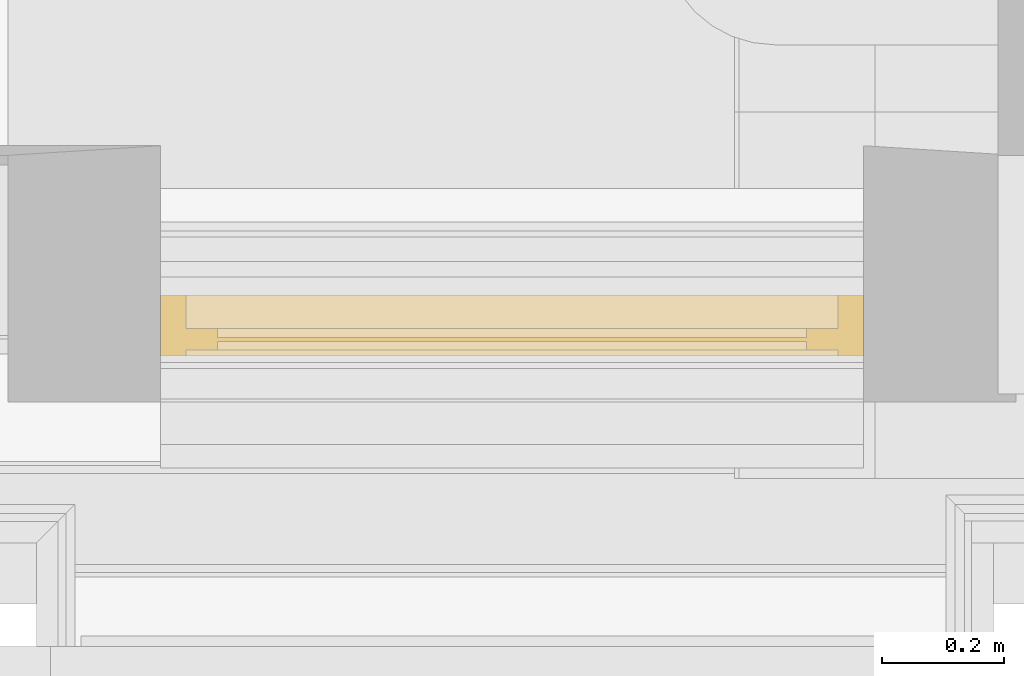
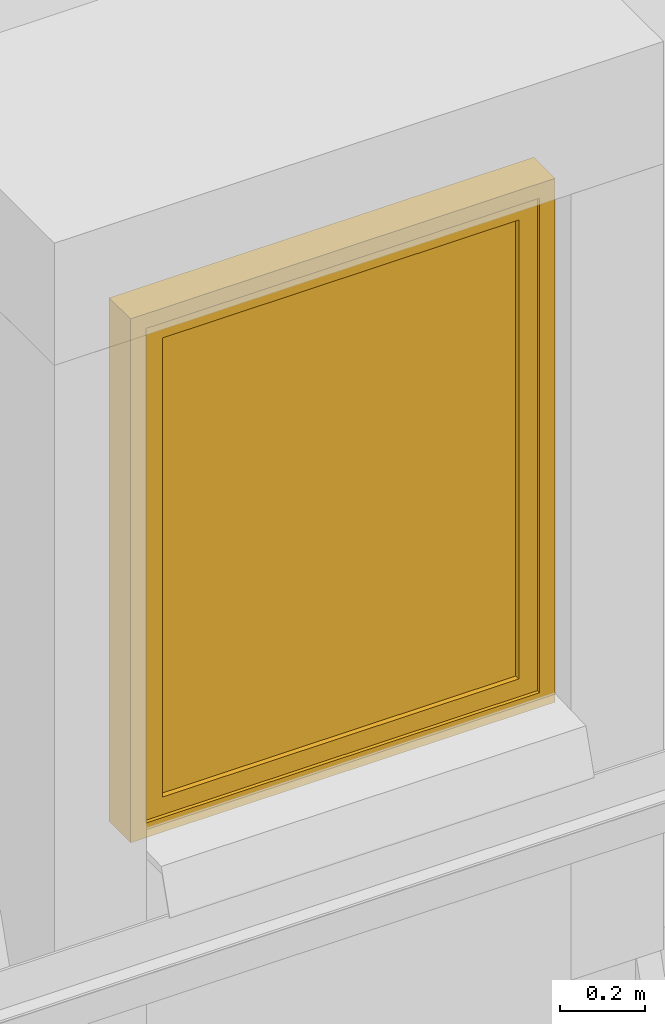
# One storey, part 102 of 169: 1 window.
"""IFC2X3 building model written with IfcOpenShell, lengths in metres."""

from ifc_helpers import new_model, entity, si_unit, converted_unit, derived_unit, money_unit, direction, frame, origin_with_axes, place, context, subcontext, project, spatial, faceted_brep, material, type_object, element, save


model = new_model("IFC2X3")

# Units and contexts
model_context = context("Model", 3, precision=1e-05, world=origin_with_axes(), true_north=direction((0.0, 1.0)))
body_context = subcontext(model_context, "Body", "Model", "MODEL_VIEW", scale=1.0)
ifc_project = project(units=[si_unit("LENGTHUNIT", "METRE"), si_unit("AREAUNIT", "SQUARE_METRE"), si_unit("VOLUMEUNIT", "CUBIC_METRE"), si_unit("ABSORBEDDOSEUNIT", "GRAY"), si_unit("AMOUNTOFSUBSTANCEUNIT", "MOLE"), si_unit("DOSEEQUIVALENTUNIT", "SIEVERT"), si_unit("ELECTRICCAPACITANCEUNIT", "FARAD"), si_unit("ELECTRICCHARGEUNIT", "COULOMB"), si_unit("ELECTRICCONDUCTANCEUNIT", "SIEMENS"), si_unit("ELECTRICCURRENTUNIT", "AMPERE"), si_unit("ELECTRICRESISTANCEUNIT", "OHM"), si_unit("ELECTRICVOLTAGEUNIT", "VOLT"), si_unit("ENERGYUNIT", "JOULE"), si_unit("FORCEUNIT", "NEWTON"), si_unit("FREQUENCYUNIT", "HERTZ"), si_unit("ILLUMINANCEUNIT", "LUX"), si_unit("INDUCTANCEUNIT", "HENRY"), si_unit("LUMINOUSFLUXUNIT", "LUMEN"), si_unit("LUMINOUSINTENSITYUNIT", "CANDELA"), si_unit("MAGNETICFLUXDENSITYUNIT", "TESLA"), si_unit("MAGNETICFLUXUNIT", "WEBER"), si_unit("MASSUNIT", "GRAM"), converted_unit("PLANEANGLEUNIT", "degree", entity("IfcReal", 0.0174532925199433), si_unit("PLANEANGLEUNIT", "RADIAN"), dimensions=[0, 0, 0, 0, 0, 0, 0]), si_unit("POWERUNIT", "WATT"), si_unit("PRESSUREUNIT", "PASCAL"), si_unit("RADIOACTIVITYUNIT", "BECQUEREL"), si_unit("SOLIDANGLEUNIT", "STERADIAN"), si_unit("THERMODYNAMICTEMPERATUREUNIT", "KELVIN"), si_unit("TIMEUNIT", "SECOND"), derived_unit("ACCELERATIONUNIT", [(si_unit("LENGTHUNIT", "METRE"), 1), (si_unit("TIMEUNIT", "SECOND"), -2)]), derived_unit("ANGULARVELOCITYUNIT", [(converted_unit("PLANEANGLEUNIT", "degree", entity("IfcReal", 0.0174532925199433), si_unit("PLANEANGLEUNIT", "RADIAN"), dimensions=[0, 0, 0, 0, 0, 0, 0]), 1), (si_unit("TIMEUNIT", "SECOND"), -1)]), derived_unit("CURVATUREUNIT", [(converted_unit("PLANEANGLEUNIT", "degree", entity("IfcReal", 0.0174532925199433), si_unit("PLANEANGLEUNIT", "RADIAN"), dimensions=[0, 0, 0, 0, 0, 0, 0]), 1), (si_unit("LENGTHUNIT", "METRE"), -1)]), derived_unit("DYNAMICVISCOSITYUNIT", [(si_unit("PRESSUREUNIT", "PASCAL"), 1), (si_unit("TIMEUNIT", "SECOND"), 1)]), derived_unit("HEATFLUXDENSITYUNIT", [(si_unit("POWERUNIT", "WATT"), 1), (si_unit("LENGTHUNIT", "METRE"), -2)]), derived_unit("HEATINGVALUEUNIT", [(si_unit("ENERGYUNIT", "JOULE"), 1), (si_unit("MASSUNIT", "GRAM"), -1)]), derived_unit("INTEGERCOUNTRATEUNIT", [(si_unit("TIMEUNIT", "SECOND"), -1)]), derived_unit("IONCONCENTRATIONUNIT", [(si_unit("MASSUNIT", "GRAM"), 1), (si_unit("VOLUMEUNIT", "CUBIC_METRE"), -1)]), derived_unit("ISOTHERMALMOISTURECAPACITYUNIT", [(si_unit("VOLUMEUNIT", "CUBIC_METRE"), 1), (si_unit("MASSUNIT", "GRAM"), -1)]), derived_unit("KINEMATICVISCOSITYUNIT", [(si_unit("AREAUNIT", "SQUARE_METRE"), 1), (si_unit("TIMEUNIT", "SECOND"), -1)]), derived_unit("LINEARFORCEUNIT", [(si_unit("FORCEUNIT", "NEWTON"), 1), (si_unit("LENGTHUNIT", "METRE"), -1)]), derived_unit("LINEARMOMENTUNIT", [(si_unit("FORCEUNIT", "NEWTON"), 1), (si_unit("LENGTHUNIT", "METRE"), -1)]), derived_unit("LINEARSTIFFNESSUNIT", [(si_unit("FORCEUNIT", "NEWTON"), 1), (si_unit("LENGTHUNIT", "METRE"), -1)]), derived_unit("LINEARVELOCITYUNIT", [(si_unit("LENGTHUNIT", "METRE"), 1), (si_unit("TIMEUNIT", "SECOND"), -1)]), derived_unit("LUMINOUSINTENSITYDISTRIBUTIONUNIT", [(si_unit("LUMINOUSINTENSITYUNIT", "CANDELA"), 1), (si_unit("LUMINOUSFLUXUNIT", "LUMEN"), -1)]), derived_unit("MASSDENSITYUNIT", [(si_unit("MASSUNIT", "GRAM"), 1), (si_unit("VOLUMEUNIT", "CUBIC_METRE"), -1)]), derived_unit("MASSFLOWRATEUNIT", [(si_unit("MASSUNIT", "GRAM"), 1), (si_unit("TIMEUNIT", "SECOND"), -1)]), derived_unit("MASSPERLENGTHUNIT", [(si_unit("MASSUNIT", "GRAM"), 1), (si_unit("LENGTHUNIT", "METRE"), -1)]), derived_unit("MODULUSOFELASTICITYUNIT", [(si_unit("FORCEUNIT", "NEWTON"), 1), (si_unit("AREAUNIT", "SQUARE_METRE"), -1)]), derived_unit("MODULUSOFLINEARSUBGRADEREACTIONUNIT", [(si_unit("FORCEUNIT", "NEWTON"), 1), (si_unit("LENGTHUNIT", "METRE"), -2)]), derived_unit("MODULUSOFROTATIONALSUBGRADEREACTIONUNIT", [(si_unit("FORCEUNIT", "NEWTON"), 1), (si_unit("LENGTHUNIT", "METRE"), 1)]), derived_unit("MODULUSOFSUBGRADEREACTIONUNIT", [(si_unit("FORCEUNIT", "NEWTON"), 1), (si_unit("VOLUMEUNIT", "CUBIC_METRE"), -1)]), derived_unit("MOISTUREDIFFUSIVITYUNIT", [(si_unit("VOLUMEUNIT", "CUBIC_METRE"), 1), (si_unit("TIMEUNIT", "SECOND"), -1)]), derived_unit("MOLECULARWEIGHTUNIT", [(si_unit("MASSUNIT", "GRAM"), 1), (si_unit("AMOUNTOFSUBSTANCEUNIT", "MOLE"), -1)]), derived_unit("PLANARFORCEUNIT", [(si_unit("FORCEUNIT", "NEWTON"), 1), (si_unit("LENGTHUNIT", "METRE"), -2)]), derived_unit("ROTATIONALFREQUENCYUNIT", [(si_unit("TIMEUNIT", "SECOND"), -1)]), derived_unit("ROTATIONALMASSUNIT", [(si_unit("MASSUNIT", "GRAM"), 1), (si_unit("LENGTHUNIT", "METRE"), 2)]), derived_unit("ROTATIONALSTIFFNESSUNIT", [(si_unit("FORCEUNIT", "NEWTON"), 1), (si_unit("LENGTHUNIT", "METRE"), 1), (converted_unit("PLANEANGLEUNIT", "degree", entity("IfcReal", 0.0174532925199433), si_unit("PLANEANGLEUNIT", "RADIAN"), dimensions=[0, 0, 0, 0, 0, 0, 0]), -1)]), derived_unit("SECTIONAREAINTEGRALUNIT", [(si_unit("LENGTHUNIT", "METRE"), 5)]), derived_unit("SECTIONMODULUSUNIT", [(si_unit("LENGTHUNIT", "METRE"), 3)]), derived_unit("SHEARMODULUSUNIT", [(si_unit("FORCEUNIT", "NEWTON"), 1), (si_unit("AREAUNIT", "SQUARE_METRE"), -1)]), derived_unit("SOUNDPOWERUNIT", [(si_unit("ENERGYUNIT", "JOULE"), 1), (si_unit("TIMEUNIT", "SECOND"), -1)]), derived_unit("SPECIFICHEATCAPACITYUNIT", [(si_unit("FORCEUNIT", "NEWTON"), 1), (si_unit("MASSUNIT", "GRAM"), -1), (si_unit("THERMODYNAMICTEMPERATUREUNIT", "KELVIN"), -1)]), derived_unit("TEMPERATUREGRADIENTUNIT", [(si_unit("THERMODYNAMICTEMPERATUREUNIT", "KELVIN"), 1), (si_unit("LENGTHUNIT", "METRE"), -1)]), derived_unit("THERMALADMITTANCEUNIT", [(si_unit("POWERUNIT", "WATT"), 1), (si_unit("AREAUNIT", "SQUARE_METRE"), -1), (si_unit("THERMODYNAMICTEMPERATUREUNIT", "KELVIN"), -1)]), derived_unit("THERMALCONDUCTANCEUNIT", [(si_unit("POWERUNIT", "WATT"), 1), (si_unit("LENGTHUNIT", "METRE"), -1), (si_unit("THERMODYNAMICTEMPERATUREUNIT", "KELVIN"), -1)]), derived_unit("THERMALEXPANSIONCOEFFICIENTUNIT", [(si_unit("THERMODYNAMICTEMPERATUREUNIT", "KELVIN"), -1)]), derived_unit("THERMALRESISTANCEUNIT", [(si_unit("AREAUNIT", "SQUARE_METRE"), 1), (si_unit("POWERUNIT", "WATT"), -1)]), derived_unit("THERMALTRANSMITTANCEUNIT", [(si_unit("POWERUNIT", "WATT"), 1), (si_unit("AREAUNIT", "SQUARE_METRE"), -1), (si_unit("THERMODYNAMICTEMPERATUREUNIT", "KELVIN"), -1)]), derived_unit("TORQUEUNIT", [(si_unit("FORCEUNIT", "NEWTON"), 1), (si_unit("LENGTHUNIT", "METRE"), 1)]), derived_unit("VAPORPERMEABILITYUNIT", [(si_unit("MASSUNIT", "GRAM"), 1), (si_unit("TIMEUNIT", "SECOND"), -1)]), derived_unit("VOLUMETRICFLOWRATEUNIT", [(si_unit("VOLUMEUNIT", "CUBIC_METRE"), 1), (si_unit("TIMEUNIT", "SECOND"), -1)]), derived_unit("WARPINGCONSTANTUNIT", [(si_unit("LENGTHUNIT", "METRE"), 6)]), derived_unit("WARPINGMOMENTUNIT", [(si_unit("FORCEUNIT", "NEWTON"), 1), (si_unit("LENGTHUNIT", "METRE"), 2)]), money_unit("GBP")], contexts=[model_context])

# Site, building, storey, space
site_placement = place(None, origin_with_axes())
site = spatial("IfcSite", under=ifc_project, at=site_placement, Name="Site", CompositionType="ELEMENT")
building_placement = place(site_placement, origin_with_axes())
building = spatial("IfcBuilding", under=site, at=building_placement, Name="Building01", CompositionType="ELEMENT")
storey_placement = place(building_placement, frame((0.0, 0.0, 5.15), z_axis=(0.0, 0.0, 1.0), x_axis=(1.0, 0.0, 0.0)))
storey = spatial("IfcBuildingStorey", under=building, at=storey_placement, Name="1F", CompositionType="ELEMENT", Elevation=5.15)
space_placement = place(storey_placement, frame((12.175, 4.189428, 9.86), z_axis=(0.0, 0.0, 1.0), x_axis=(0.0, 1.0, 0.0)))
space = spatial("IfcSpace", under=storey, at=space_placement, Name="25", CompositionType="ELEMENT", InteriorOrExteriorSpace="NOTDEFINED")

# Window
ifc_material = material(Name="A_BSUK_Windows")
window_style = type_object("IfcWindowStyle", Name="A-Awning", ConstructionType="NOTDEFINED", OperationType="USERDEFINED", ParameterTakesPrecedence=False, Sizeable=False)
window_placement = place(storey_placement, frame((12.980024, 0.549939, 10.83), z_axis=(0.0, 0.0, 1.0), x_axis=(1.0, 0.0, 0.0)))
element("IfcWindow", 1, at=window_placement, inside=space, type_object=window_style, material=ifc_material, Name="4.05", ObjectType="A-Awning", OverallHeight=1.50000000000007, OverallWidth=1.15000000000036, context=body_context, shape_type="Brep", body=[
    faceted_brep([(-1.108, 0.0254, 0.042), (-0.042, 0.0254, 0.042), (-0.042, 0.1254, 0.042), (-1.108, 0.1254, 0.042), (-1.108, 0.0254, 1.458), (-1.108, 0.1254, 1.458), (-0.042, 0.0254, 1.458), (-0.042, 0.1254, 1.458), (0.0, 0.0254, 0.0), (0.0, 0.0254, 1.5), (-1.15, 0.0254, 1.5), (-1.15, 0.0254, 0.0), (0.0, 0.1254, 1.5), (-1.15, 0.1254, 1.5), (-1.15, 0.1254, 0.0), (0.0, 0.1254, 0.0)], [[[0, 1, 2, 3]], [[4, 0, 3, 5]], [[6, 4, 5, 7]], [[8, 9, 10, 11], [4, 6, 1, 0]], [[1, 6, 7, 2]], [[12, 13, 10, 9]], [[14, 15, 8, 11]], [[13, 14, 11, 10]], [[13, 12, 15, 14], [2, 7, 5, 3]], [[15, 12, 9, 8]]]),
    faceted_brep([(-1.0572, 0.0354, 0.0928), (-0.0928, 0.0354, 0.0928), (-0.0928, 0.0704, 0.0928), (-1.0572, 0.0704, 0.0928), (-1.0572, 0.0354, 1.4072), (-1.0572, 0.0704, 1.4072), (-0.0928, 0.0354, 1.4072), (-0.0928, 0.0704, 1.4072), (-1.108, 0.0704, 1.458), (-0.042, 0.0704, 1.458), (-0.042, 0.0704, 0.042), (-1.108, 0.0704, 0.042), (-1.108, 0.0354, 1.458), (-0.042, 0.0354, 1.458), (-0.042, 0.0354, 0.042), (-1.108, 0.0354, 0.042)], [[[0, 1, 2, 3]], [[4, 0, 3, 5]], [[6, 4, 5, 7]], [[8, 9, 10, 11], [2, 7, 5, 3]], [[9, 8, 12, 13]], [[10, 9, 13, 14]], [[11, 10, 14, 15]], [[8, 11, 15, 12]], [[14, 13, 12, 15], [4, 6, 1, 0]], [[1, 6, 7, 2]]]),
    faceted_brep([(-0.0928, 0.049725, 0.0928), (-0.0928, 0.056075, 0.0928), (-0.0928, 0.056075, 1.4072), (-0.0928, 0.049725, 1.4072), (-1.0572, 0.049725, 1.4072), (-1.0572, 0.056075, 1.4072), (-1.0572, 0.056075, 0.0928), (-1.0572, 0.049725, 0.0928)], [[[0, 1, 2, 3]], [[4, 5, 6, 7]], [[3, 2, 5, 4]], [[3, 4, 7, 0]], [[7, 6, 1, 0]], [[1, 6, 5, 2]]]),
])

save(model, "model.ifc")
